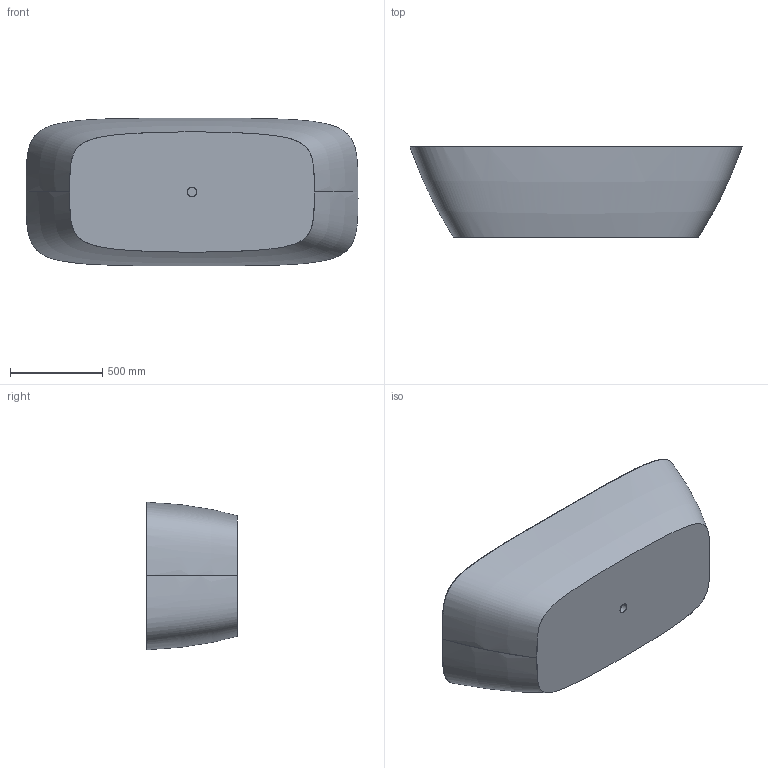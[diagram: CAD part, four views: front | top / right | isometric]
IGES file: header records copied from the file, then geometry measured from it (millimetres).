
Start section: SolidWorks IGES file using analytic representation for surfaces
Global section: file name: D:\Users\M.Szymanski\Desktop\Wanny\LaSenia\03. do przegrania\44\WP_LaSENIA_80x180x44.IGS; native system: SolidWorks 2011; preprocessor: SolidWorks 2011; author: M.Szymanski; date: 180530.111653; units: millimetre
Bounding box: 1799.5 x 490 x 799.93 mm (x, y, z)
Surface area: 5630823.9 mm2 (no closed solid volume)
Topology: 0 solids, 0 shells, 49 faces, 1445 edges, 1444 vertices
Faces by surface type: bspline 37, revolution 12
